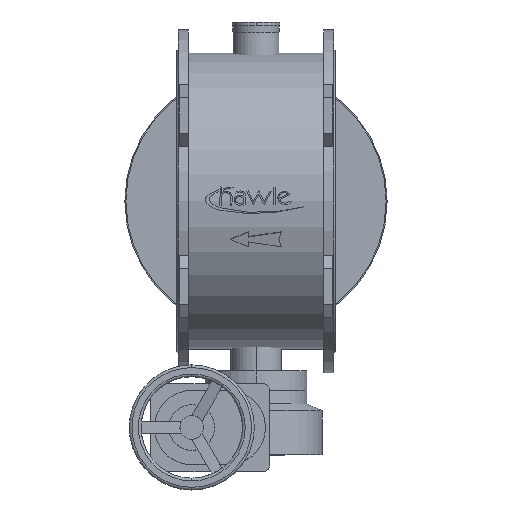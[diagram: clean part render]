
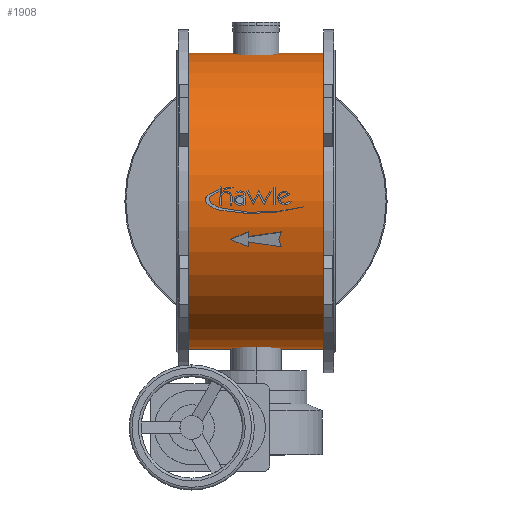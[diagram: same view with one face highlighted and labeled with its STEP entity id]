
A CAD part, top view. The second image highlights one B-rep face of the part: STEP entity #1908.
In plain terms, the highlighted cylindrical face has radius 438 mm (diameter 876 mm), a partial arc.
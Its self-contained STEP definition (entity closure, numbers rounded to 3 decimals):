
#1908=ADVANCED_FACE('',(#3637),#3638,.T.);
#3637=FACE_OUTER_BOUND('',#5522,.T.);
#3638=CYLINDRICAL_SURFACE('',#5523,438.0);
#5522=EDGE_LOOP('',(#9254,#9255,#9256,#9257));
#5523=AXIS2_PLACEMENT_3D('',#9258,#9259,#9260);
#9254=ORIENTED_EDGE('',*,*,#10465,.T.);
#9255=ORIENTED_EDGE('',*,*,#11255,.T.);
#9256=ORIENTED_EDGE('',*,*,#10467,.T.);
#9257=ORIENTED_EDGE('',*,*,#10802,.T.);
#9258=CARTESIAN_POINT('',(-435.0,0.,0.0));
#9259=DIRECTION('',(1.0,0.,0.0));
#9260=DIRECTION('',(0.,-1.0,0.0));
#10465=EDGE_CURVE('',#12437,#12438,#12439,.T.);
#10467=EDGE_CURVE('',#12442,#12440,#12443,.T.);
#10802=EDGE_CURVE('',#12440,#12437,#12966,.T.);
#11255=EDGE_CURVE('',#12438,#12442,#13579,.T.);
#12437=VERTEX_POINT('',#15025);
#12438=VERTEX_POINT('',#15026);
#12439=LINE('',#15027,#15028);
#12440=VERTEX_POINT('',#15029);
#12442=VERTEX_POINT('',#15031);
#12443=LINE('',#15032,#15033);
#12966=CIRCLE('',#15678,438.0);
#13579=CIRCLE('',#16451,438.0);
#15025=CARTESIAN_POINT('',(-435.0,-438.0,0.0));
#15026=CARTESIAN_POINT('',(-35.0,-438.0,0.0));
#15027=CARTESIAN_POINT('',(-435.0,-438.0,0.));
#15028=VECTOR('',#17627,1.0);
#15029=CARTESIAN_POINT('',(-435.0,438.0,0.));
#15031=CARTESIAN_POINT('',(-35.0,438.0,0.));
#15032=CARTESIAN_POINT('',(-435.0,438.0,0.));
#15033=VECTOR('',#17631,1.0);
#15678=AXIS2_PLACEMENT_3D('',#18162,#18163,#18164);
#16451=AXIS2_PLACEMENT_3D('',#18745,#18746,#18747);
#17627=DIRECTION('',(1.0,0.,0.0));
#17631=DIRECTION('',(-1.0,0.,-0.0));
#18162=CARTESIAN_POINT('',(-435.0,0.,0.0));
#18163=DIRECTION('',(1.0,0.,0.0));
#18164=DIRECTION('',(0.,-1.0,0.0));
#18745=CARTESIAN_POINT('',(-35.0,0.,0.0));
#18746=DIRECTION('',(-1.0,0.,0.0));
#18747=DIRECTION('',(0.,-1.0,0.0));
